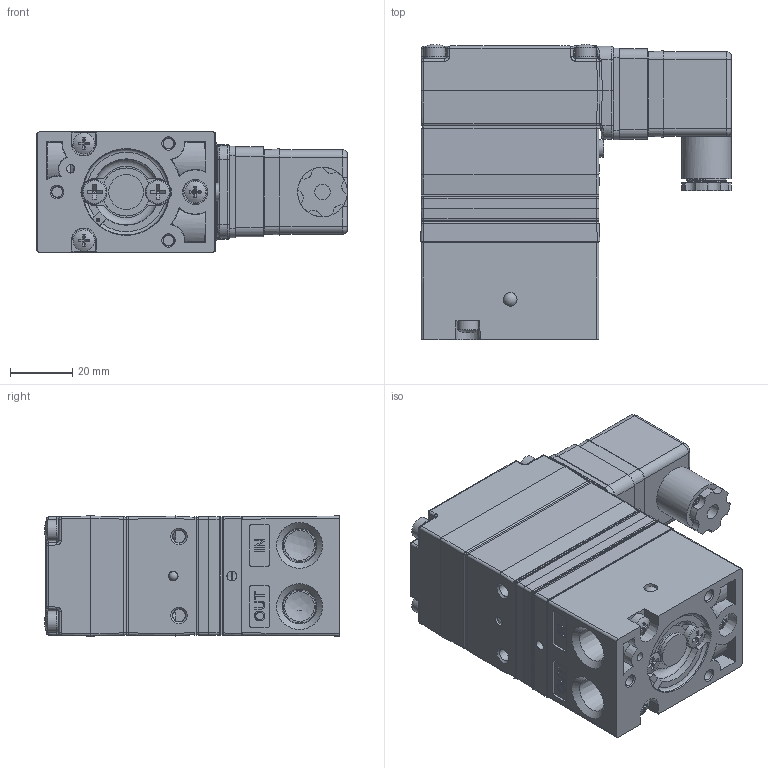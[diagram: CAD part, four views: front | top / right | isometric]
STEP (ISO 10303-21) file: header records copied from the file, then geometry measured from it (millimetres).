
FILE_DESCRIPTION(/* description */ (''),/* implementation_level */ '2;1');
FILE_NAME(/* name */ 'U:/AirCom-Produktdokumentation/Proportionaldruckregler/PT7/Zeichnungen/CAD-Aircom/3D/B-PT782-Bx.step',/* time_stamp */ '2022-06-13T14:14:31+02:00',/* author */ (''),/* organization */ (''),/* preprocessor_version */ 'ST-DEVELOPER v19',/* originating_system */ 'Autodesk Translation Framework v11.7.0.108',/* authorisation */ '');
FILE_SCHEMA (('AUTOMOTIVE_DESIGN { 1 0 10303 214 3 1 1 }'));
Products named in the file (1): 18800
Bounding box: 99.99 x 95.07 x 38.69 mm (x, y, z)
Volume: 150661.8 mm3; surface area: 76762.8 mm2
Topology: 1 solids, 26 shells, 3011 faces, 7289 edges, 4446 vertices
Faces by surface type: plane 1166, cylinder 700, bspline 475, cone 318, torus 250, sphere 102
Full cylindrical faces by diameter (mm): 0.794 x1, 1.016 x1, 1.321 x1, 1.524 x2, 1.575 x3, 1.588 x2, 1.778 x1, 2.261 x8, 2.329 x11, 2.381 x2, 2.388 x7, 2.692 x1, 2.705 x11, 2.845 x1, 2.87 x2, 2.946 x4, 3.048 x3, 3.175 x6, 3.2 x2, 3.226 x2, 3.251 x1, 3.302 x6, 3.429 x4, 3.454 x1, 3.962 x1, 3.969 x1, 3.988 x3, 4.039 x1, 4.166 x9, 4.216 x2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
Entity records: 136187 total; most frequent: CARTESIAN_POINT 66179, ORIENTED_EDGE 14410, DIRECTION 13387, EDGE_CURVE 7205, AXIS2_PLACEMENT_3D 5104, VERTEX_POINT 4446, EDGE_LOOP 3285, LINE 3179
